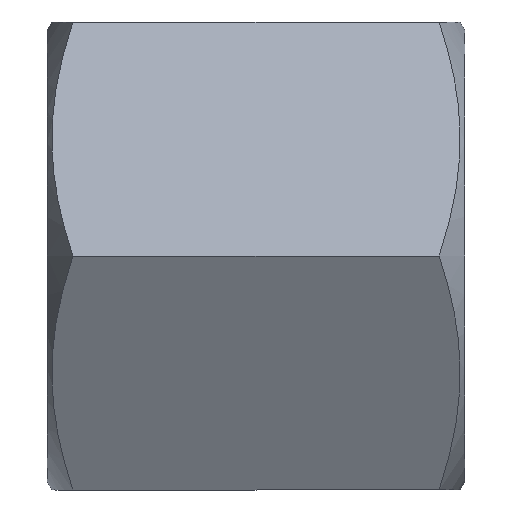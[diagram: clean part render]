
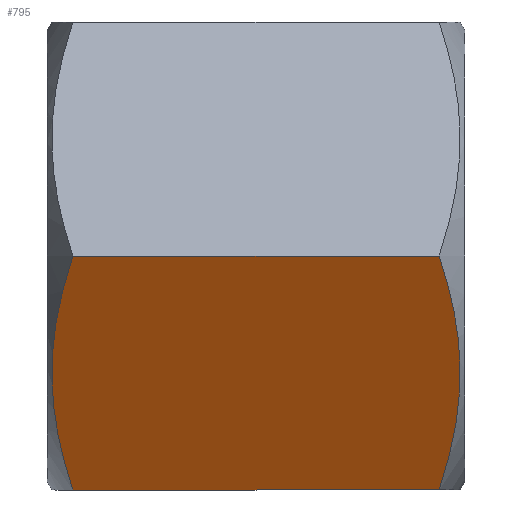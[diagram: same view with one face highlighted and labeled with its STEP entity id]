
A CAD part, front view. The second image highlights one B-rep face of the part: STEP entity #795.
In plain terms, the highlighted planar face has unit normal (0, -0.866, -0.5) as drawn and (-0.5, -0.866, 0) by its records, which use the part's own axes.
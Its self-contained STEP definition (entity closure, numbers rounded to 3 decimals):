
#168=CARTESIAN_POINT('',(-7.,-4.041,5.48));
#169=VERTEX_POINT('',#168);
#183=CARTESIAN_POINT('',(0.,-8.083,5.48));
#184=VERTEX_POINT('',#183);
#185=CARTESIAN_POINT('',(0.,-8.083,5.48));
#186=CARTESIAN_POINT('',(-3.5,-6.062,6.647));
#187=CARTESIAN_POINT('',(-7.,-4.041,5.48));
#195=(BOUNDED_CURVE()B_SPLINE_CURVE(2,(#185,#186,#187),.UNSPECIFIED.,.F.,.U.)B_SPLINE_CURVE_WITH_KNOTS((3,3),(2.422,11.671),.UNSPECIFIED.)CURVE()GEOMETRIC_REPRESENTATION_ITEM()RATIONAL_B_SPLINE_CURVE((1.114,1.286,1.114))REPRESENTATION_ITEM(''));
#196=EDGE_CURVE('',#184,#169,#195,.T.);
#259=CARTESIAN_POINT('',(0.,-8.083,-5.48));
#260=VERTEX_POINT('',#259);
#274=CARTESIAN_POINT('',(-7.,-4.041,-5.48));
#275=VERTEX_POINT('',#274);
#276=CARTESIAN_POINT('',(-7.,-4.041,-5.48));
#277=CARTESIAN_POINT('',(-3.5,-6.062,-6.647));
#278=CARTESIAN_POINT('',(0.,-8.083,-5.48));
#286=(BOUNDED_CURVE()B_SPLINE_CURVE(2,(#276,#277,#278),.UNSPECIFIED.,.F.,.U.)B_SPLINE_CURVE_WITH_KNOTS((3,3),(2.422,11.671),.UNSPECIFIED.)CURVE()GEOMETRIC_REPRESENTATION_ITEM()RATIONAL_B_SPLINE_CURVE((1.114,1.286,1.114))REPRESENTATION_ITEM(''));
#287=EDGE_CURVE('',#275,#260,#286,.T.);
#745=CARTESIAN_POINT('',(-7.,-4.041,5.48));
#746=DIRECTION('',(0.0,0.0,-1.0));
#747=VECTOR('',#746,10.961);
#748=LINE('',#745,#747);
#749=EDGE_CURVE('',#169,#275,#748,.T.);
#779=CARTESIAN_POINT('',(-7.,-4.041,0.0));
#780=DIRECTION('',(-0.5,-0.866,0.0));
#781=DIRECTION('',(0.0,0.0,-1.0));
#782=AXIS2_PLACEMENT_3D('',#779,#780,#781);
#783=PLANE('',#782);
#784=ORIENTED_EDGE('',*,*,#287,.T.);
#785=CARTESIAN_POINT('',(0.,-8.083,-5.48));
#786=DIRECTION('',(0.0,0.0,1.0));
#787=VECTOR('',#786,10.961);
#788=LINE('',#785,#787);
#789=EDGE_CURVE('',#260,#184,#788,.T.);
#790=ORIENTED_EDGE('',*,*,#789,.T.);
#791=ORIENTED_EDGE('',*,*,#196,.T.);
#792=ORIENTED_EDGE('',*,*,#749,.T.);
#793=EDGE_LOOP('',(#784,#790,#791,#792));
#794=FACE_OUTER_BOUND('',#793,.T.);
#795=ADVANCED_FACE('',(#794),#783,.T.);
